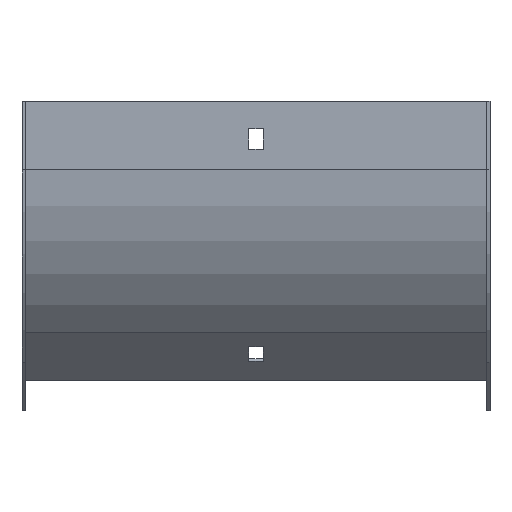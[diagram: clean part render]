
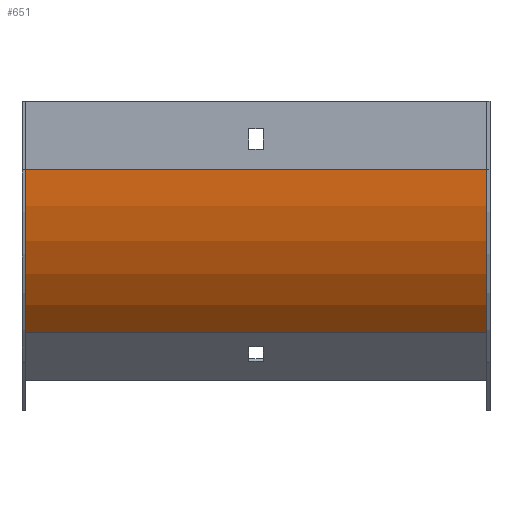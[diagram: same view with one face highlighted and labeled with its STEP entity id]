
A CAD part, front view. The second image highlights one B-rep face of the part: STEP entity #651.
In plain terms, the highlighted cylindrical face has radius 100 mm (diameter 200 mm), a partial arc.
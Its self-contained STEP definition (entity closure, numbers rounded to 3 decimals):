
#6 = CYLINDRICAL_SURFACE ( 'NONE', #322, 100. ) ;
#15 = VECTOR ( 'NONE', #127, 1000. ) ;
#64 = ORIENTED_EDGE ( 'NONE', *, *, #790, .F. ) ;
#127 = DIRECTION ( 'NONE',  ( -1., 0., 0. ) ) ;
#129 = ORIENTED_EDGE ( 'NONE', *, *, #237, .T. ) ;
#189 = ORIENTED_EDGE ( 'NONE', *, *, #609, .F. ) ;
#194 = LINE ( 'NONE', #722, #15 ) ;
#198 = CARTESIAN_POINT ( 'NONE',  ( 100.5, 98.5, -30. ) ) ;
#214 = VERTEX_POINT ( 'NONE', #536 ) ;
#222 = DIRECTION ( 'NONE',  ( -1., 0., 0. ) ) ;
#237 = EDGE_CURVE ( 'NONE', #725, #692, #445, .T. ) ;
#269 = FACE_OUTER_BOUND ( 'NONE', #318, .T. ) ;
#318 = EDGE_LOOP ( 'NONE', ( #189, #64, #129, #556 ) ) ;
#322 = AXIS2_PLACEMENT_3D ( 'NONE', #537, #472, #740 ) ;
#366 = CIRCLE ( 'NONE', #847, 100. ) ;
#391 = DIRECTION ( 'NONE',  ( 0., 0., -1. ) ) ;
#445 = CIRCLE ( 'NONE', #555, 100. ) ;
#452 = LINE ( 'NONE', #643, #585 ) ;
#472 = DIRECTION ( 'NONE',  ( -1., 0., 0. ) ) ;
#482 = CARTESIAN_POINT ( 'NONE',  ( -100.5, -1.5, -30. ) ) ;
#513 = CARTESIAN_POINT ( 'NONE',  ( 100.5, 27.789, -100.711 ) ) ;
#536 = CARTESIAN_POINT ( 'NONE',  ( -100.5, 27.789, -100.711 ) ) ;
#537 = CARTESIAN_POINT ( 'NONE',  ( 102., 98.5, -30. ) ) ;
#555 = AXIS2_PLACEMENT_3D ( 'NONE', #198, #587, #391 ) ;
#556 = ORIENTED_EDGE ( 'NONE', *, *, #669, .T. ) ;
#585 = VECTOR ( 'NONE', #845, 1000. ) ;
#587 = DIRECTION ( 'NONE',  ( -1., 0., 0. ) ) ;
#605 = DIRECTION ( 'NONE',  ( 0., 0., -1. ) ) ;
#609 = EDGE_CURVE ( 'NONE', #214, #624, #366, .T. ) ;
#624 = VERTEX_POINT ( 'NONE', #482 ) ;
#643 = CARTESIAN_POINT ( 'NONE',  ( 102., -1.5, -30. ) ) ;
#651 = ADVANCED_FACE ( 'NONE', ( #269 ), #6, .T. ) ;
#669 = EDGE_CURVE ( 'NONE', #692, #624, #452, .T. ) ;
#687 = CARTESIAN_POINT ( 'NONE',  ( -100.5, 98.5, -30. ) ) ;
#692 = VERTEX_POINT ( 'NONE', #771 ) ;
#722 = CARTESIAN_POINT ( 'NONE',  ( 102., 27.789, -100.711 ) ) ;
#725 = VERTEX_POINT ( 'NONE', #513 ) ;
#740 = DIRECTION ( 'NONE',  ( 0., 0., 1. ) ) ;
#771 = CARTESIAN_POINT ( 'NONE',  ( 100.5, -1.5, -30. ) ) ;
#790 = EDGE_CURVE ( 'NONE', #725, #214, #194, .T. ) ;
#845 = DIRECTION ( 'NONE',  ( -1., 0., 0. ) ) ;
#847 = AXIS2_PLACEMENT_3D ( 'NONE', #687, #222, #605 ) ;
